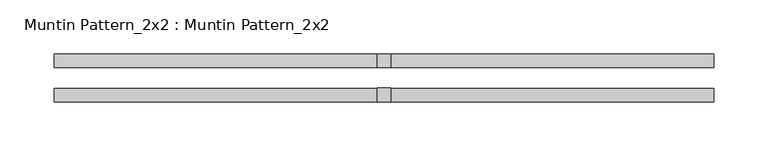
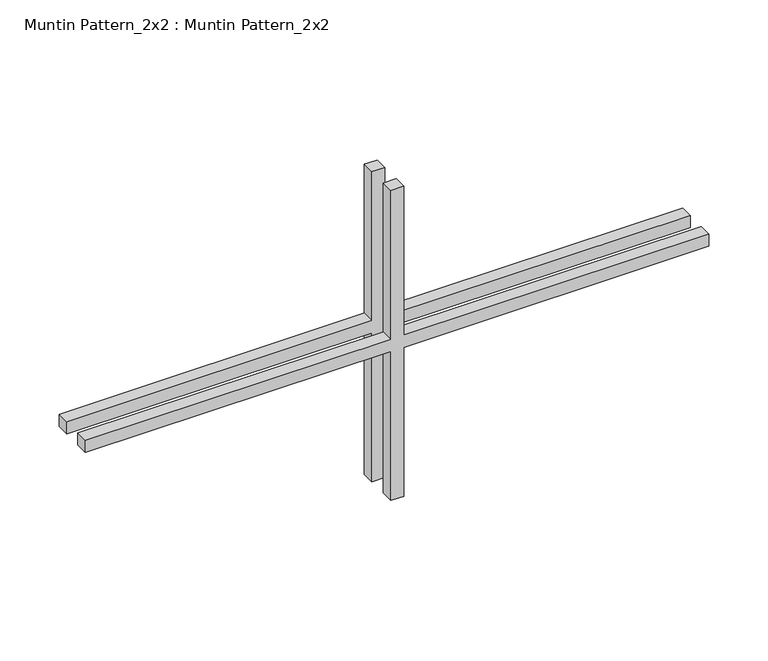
"""IFC4 building model written with IfcOpenShell, lengths in millimetres: proxy geometry, Muntin Pattern_2x2 : Muntin Pattern_2x2."""

import ifcopenshell
import ifcopenshell.guid

model = None  # the IFC model being written
_history = None  # IfcOwnerHistory: only IFC2X3 demands one
_inside = {}  # id of a spatial element -> (the spatial element, [elements in it])
_under = {}  # id of a project, library or spatial element -> (it, [spatial elements below it])
_declared = {}  # id of a project -> (the project, [libraries it declares])
_typed = {}  # id of a type object -> (the type object, [elements of that type])
_made_of = {}  # id of a material, layer set ... -> (it, [elements and type objects made of it])


def new_model(schema):
    """Start an empty IFC model of exactly this schema.

    Asked for "IFC4X3", IfcOpenShell would pick the latest addendum, in which some entities
    have other attributes; the version numbers below select the first issue.
    IFC2X3 requires an IfcOwnerHistory on every rooted entity: one is made here for all.
    """
    global model, _history
    if schema == "IFC4X3":
        model = ifcopenshell.file(schema_version=(4, 3, 0, 0))
    else:
        model = ifcopenshell.file(schema=schema)
    _inside.clear()
    _under.clear()
    _declared.clear()
    _typed.clear()
    _made_of.clear()
    _history = None
    if model.schema == "IFC2X3":
        org = make("IfcOrganization", Name="unknown")
        user = make(
            "IfcPersonAndOrganization",
            ThePerson=make("IfcPerson", FamilyName="unknown"),
            TheOrganization=org,
        )
        app = make(
            "IfcApplication",
            ApplicationDeveloper=org,
            Version="unknown",
            ApplicationFullName="unknown",
            ApplicationIdentifier="unknown",
        )
        _history = make(
            "IfcOwnerHistory",
            OwningUser=user,
            OwningApplication=app,
            ChangeAction="ADDED",
            CreationDate=0,
        )
    return model


def make(cls, **values):
    """One entity of the class cls with the attributes given. An attribute that is None is left unset."""
    return model.create_entity(
        cls, **{name: value for name, value in values.items() if value is not None}
    )


def rooted(cls, **values):
    """An entity with a GlobalId (a new one), such as an element, a storey or a relation."""
    return make(cls, GlobalId=ifcopenshell.guid.new(), OwnerHistory=_history, **values)


def si_unit(unit_type, name, prefix=None):
    """IfcSIUnit, for example si_unit("LENGTHUNIT", "METRE", prefix="MILLI")."""
    return make("IfcSIUnit", UnitType=unit_type, Prefix=prefix, Name=name)


def assignment(units):
    """IfcUnitAssignment: the units of a project."""
    return None if units is None else make("IfcUnitAssignment", Units=units)


def point(xyz):
    """IfcCartesianPoint."""
    return None if xyz is None else make("IfcCartesianPoint", Coordinates=xyz)


def direction(xyz):
    """IfcDirection."""
    return None if xyz is None else make("IfcDirection", DirectionRatios=xyz)


def frame(location, z_axis=None, x_axis=None):
    """IfcAxis2Placement3D, a coordinate frame: its origin and axes. An axis left out is left unset."""
    return make(
        "IfcAxis2Placement3D",
        Location=point(location),
        Axis=direction(z_axis),
        RefDirection=direction(x_axis),
    )


def origin():
    """The frame at (0, 0, 0) with its axes left unset."""
    return frame((0.0, 0.0, 0.0))


def place(relative_to, where):
    """IfcLocalPlacement: puts the frame where relative to a parent placement (None: the world)."""
    return make(
        "IfcLocalPlacement", PlacementRelTo=relative_to, RelativePlacement=where
    )


def context(
    kind, dimensions, precision=None, world=None, true_north=None, identifier=None
):
    """IfcGeometricRepresentationContext, for example the 3D "Model" context."""
    return make(
        "IfcGeometricRepresentationContext",
        ContextIdentifier=identifier,
        ContextType=kind,
        CoordinateSpaceDimension=dimensions,
        Precision=precision,
        WorldCoordinateSystem=world,
        TrueNorth=true_north,
    )


def project(units=None, contexts=None):
    """IfcProject with its units and contexts."""
    return rooted(
        "IfcProject",
        Name="project",
        RepresentationContexts=contexts,
        UnitsInContext=assignment(units),
    )


def spatial(cls, under=None, at=None, **own):
    """A site, building, storey or space (cls), placed at a placement, below another one or the project."""
    s = rooted(cls, ObjectPlacement=at, **own)
    if under is not None:
        _under.setdefault(under.id(), (under, []))[1].append(s)
    return s


def polyline(points):
    """IfcPolyline through the points."""
    return make("IfcPolyline", Points=[point(p) for p in points])


def outline(outer, holes=None, kind="AREA"):
    """IfcArbitraryClosedProfileDef: a profile drawn as a closed curve; with holes, ...WithVoids."""
    if holes is None:
        return make("IfcArbitraryClosedProfileDef", ProfileType=kind, OuterCurve=outer)
    return make(
        "IfcArbitraryProfileDefWithVoids",
        ProfileType=kind,
        OuterCurve=outer,
        InnerCurves=holes,
    )


def extrude(swept, where, along, depth):
    """IfcExtrudedAreaSolid: the profile swept, set in the frame where, extruded along a direction by depth."""
    return make(
        "IfcExtrudedAreaSolid",
        SweptArea=swept,
        Position=where,
        ExtrudedDirection=direction(along),
        Depth=depth,
    )


def shape(context_of_items, identifier, shape_type, items):
    """IfcShapeRepresentation: the items that make up one representation, for example the "Body"."""
    return make(
        "IfcShapeRepresentation",
        ContextOfItems=context_of_items,
        RepresentationIdentifier=identifier,
        RepresentationType=shape_type,
        Items=items,
    )


def source(mapping_origin, context_of_items, identifier, shape_type, items):
    """IfcRepresentationMap: a shape defined once, which mapped items show again and again."""
    return make(
        "IfcRepresentationMap",
        MappingOrigin=mapping_origin,
        MappedRepresentation=shape(context_of_items, identifier, shape_type, items),
    )


def transform(
    local_origin,
    x_axis=None,
    y_axis=None,
    z_axis=None,
    scale=None,
    scale2=None,
    scale3=None,
    uniform=True,
):
    """IfcCartesianTransformationOperator3D, or its non-uniform kind. x_axis, y_axis, z_axis: its Axis1, 2, 3."""
    if uniform:
        return make(
            "IfcCartesianTransformationOperator3D",
            Axis1=direction(x_axis),
            Axis2=direction(y_axis),
            LocalOrigin=point(local_origin),
            Scale=scale,
            Axis3=direction(z_axis),
        )
    return make(
        "IfcCartesianTransformationOperator3DnonUniform",
        Axis1=direction(x_axis),
        Axis2=direction(y_axis),
        LocalOrigin=point(local_origin),
        Scale=scale,
        Axis3=direction(z_axis),
        Scale2=scale2,
        Scale3=scale3,
    )


def mapped(mapping_source, mapping_target):
    """IfcMappedItem: shows the shape of a source again, moved by a transform."""
    return make(
        "IfcMappedItem", MappingSource=mapping_source, MappingTarget=mapping_target
    )


def made_of(thing, what):
    """Note that an element or type object is made of a material, layer set ...; save() writes the relation."""
    if what is not None:
        _made_of.setdefault(what.id(), (what, []))[1].append(thing)
    return thing


def element(
    cls,
    number,
    at=None,
    inside=None,
    cuts=None,
    type_object=None,
    material=None,
    context=None,
    identifier="Body",
    shape_type=None,
    held_by="IfcProductDefinitionShape",
    body=None,
    shapes=None,
    **own,
):
    """One element of the class cls, such as IfcWall. Its Tag is "e" and its number.

    at: its placement. inside: the storey or other place that contains it. cuts: it is an
    opening in that element (IfcRelVoidsElement). A single representation is given by context,
    identifier, shape_type and body (its items); several are given by shapes. held_by: the class
    of the entity that holds the representations. save() writes the other relations.
    """
    e = rooted(cls, Tag="e%d" % number, ObjectPlacement=at, **own)
    if body is not None:
        shapes = [shape(context, identifier, shape_type, body)]
    if shapes is not None:
        e.Representation = make(held_by, Representations=shapes)
    if inside is not None:
        _inside.setdefault(inside.id(), (inside, []))[1].append(e)
    if cuts is not None:
        rooted(
            "IfcRelVoidsElement", RelatingBuildingElement=cuts, RelatedOpeningElement=e
        )
    if type_object is not None:
        _typed.setdefault(type_object.id(), (type_object, []))[1].append(e)
    return made_of(e, material)


def aggregate(whole, parts):
    """IfcRelAggregates: a whole, such as a stair, and the parts it consists of."""
    return rooted("IfcRelAggregates", RelatingObject=whole, RelatedObjects=parts)


def save(model, path):
    """Write the relations noted so far, then the file.

    IfcRelAggregates (storeys below a building ...), IfcRelContainedInSpatialStructure (elements
    in a storey), IfcRelDefinesByType, IfcRelAssociatesMaterial and IfcRelDeclares: one each for
    every whole, place, type object, material and project.
    """
    for whole, parts in _under.values():
        aggregate(whole, parts)
    for where, things in _inside.values():
        rooted(
            "IfcRelContainedInSpatialStructure",
            RelatedElements=things,
            RelatingStructure=where,
        )
    for kind, things in _typed.values():
        rooted("IfcRelDefinesByType", RelatedObjects=things, RelatingType=kind)
    for what, things in _made_of.values():
        rooted("IfcRelAssociatesMaterial", RelatedObjects=things, RelatingMaterial=what)
    for by, libraries in _declared.values():
        rooted("IfcRelDeclares", RelatingContext=by, RelatedDefinitions=libraries)
    model.write(path)


def muntin_pattern_2x2_muntin_pattern_2x2_9f8062bf(model_context):
    return source(origin(), model_context, "Body", "SweptSolid", [
        extrude(outline(polyline([(166.6875, -6.35), (166.6875, -304.8), (153.9875, -304.8), (153.9875, -6.35), (0.0, -6.35), (0.0, 6.35), (153.9875, 6.35), (153.9875, 304.8), (166.6875, 304.8), (166.6875, 6.35), (320.675, 6.35), (320.675, -6.35), (166.6875, -6.35)])), frame((0.0, 9.525, 0.0), z_axis=(0.0, 1.0, 0.0), x_axis=(0.0, 0.0, 1.0)), (0.0, 0.0, 1.0), 12.7),
        extrude(outline(polyline([(166.6875, -6.35), (166.6875, -304.8), (153.9875, -304.8), (153.9875, -6.35), (0.0, -6.35), (0.0, 6.35), (153.9875, 6.35), (153.9875, 304.8), (166.6875, 304.8), (166.6875, 6.35), (320.675, 6.35), (320.675, -6.35), (166.6875, -6.35)])), frame((0.0, -22.225, 0.0), z_axis=(0.0, 1.0, 0.0), x_axis=(0.0, 0.0, 1.0)), (0.0, 0.0, 1.0), 12.7),
    ])


if __name__ == "__main__":
    model = new_model("IFC4")
    model_context = context("Model", 3, world=origin())
    ifc_project = project(units=[si_unit("LENGTHUNIT", "METRE", prefix="MILLI")], contexts=[model_context])
    site = spatial("IfcSite", under=ifc_project)
    building = spatial("IfcBuilding", under=site)
    placement = place(None, origin())
    muntin_pattern_2x2_muntin_pattern_2x2_shape = muntin_pattern_2x2_muntin_pattern_2x2_9f8062bf(model_context)
    element("IfcBuildingElementProxy", 1, Name="Muntin Pattern_2x2 : Muntin Pattern_2x2", ObjectType="Muntin Pattern_2x2 : Muntin Pattern_2x2", at=placement, inside=building, context=model_context, shape_type="MappedRepresentation", body=[
        mapped(muntin_pattern_2x2_muntin_pattern_2x2_shape, transform((0.0, 0.0, 0.0), x_axis=(1.0, 0.0, 0.0), y_axis=(0.0, 1.0, 0.0), z_axis=(0.0, 0.0, 1.0))),
    ])
    save(model, "model.ifc")
